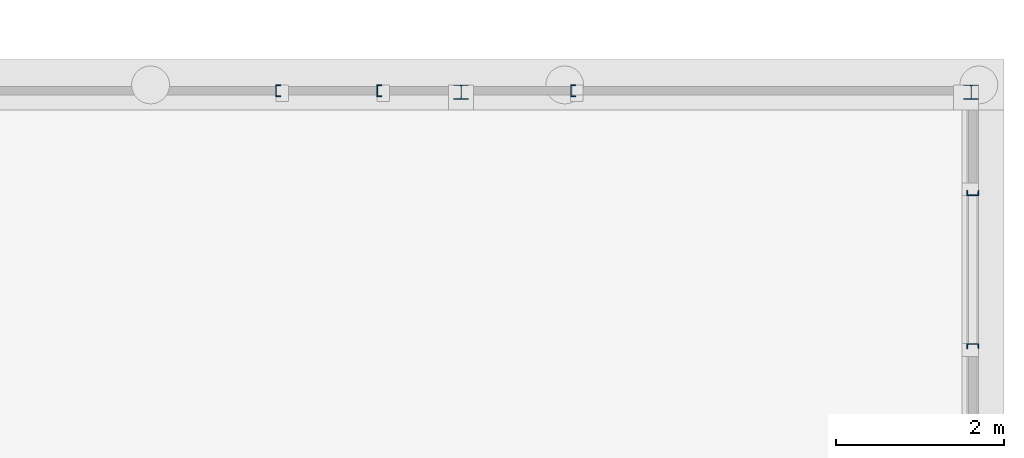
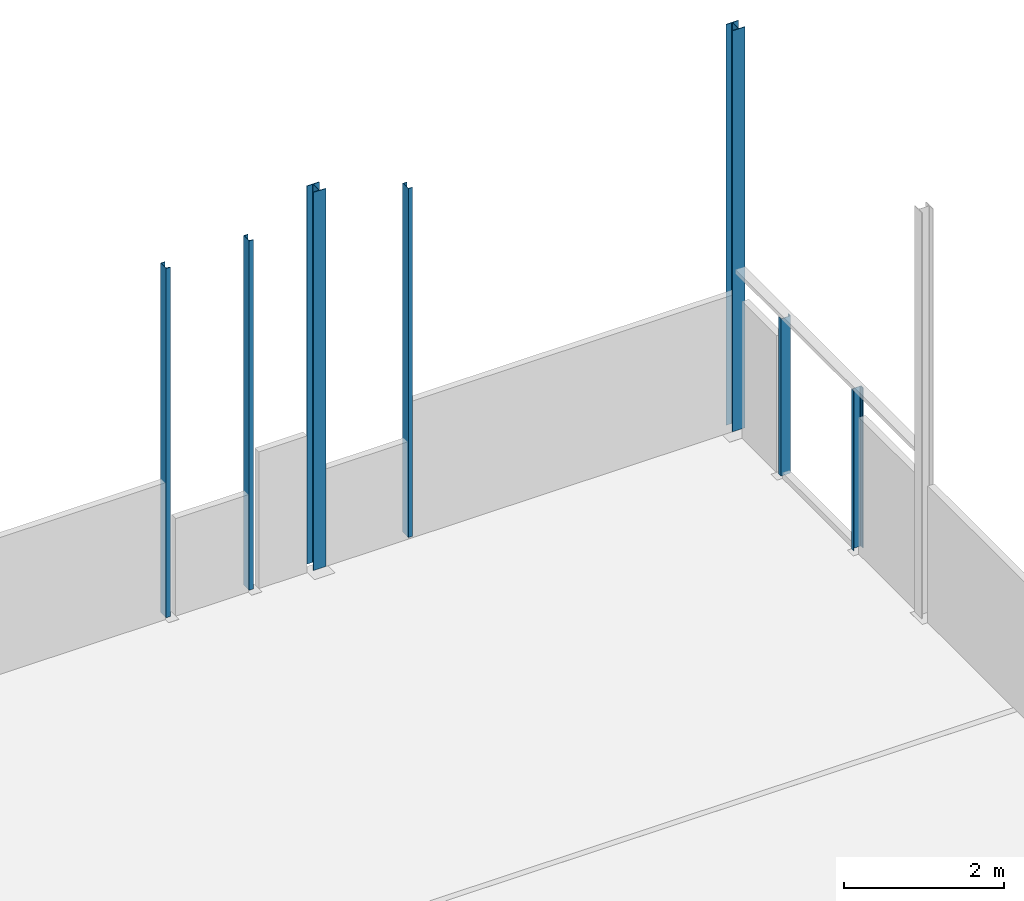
# One storey, part 8 of 18: 7 columns.
"""IFC2X3 building model written with IfcOpenShell, lengths in millimetres."""

from ifc_helpers import new_model, entity, si_unit, converted_unit, derived_unit, direction, frame, frame_2d, origin, place, context, subcontext, project, spatial, polyline, circle_curve, parameter, trimmed, segment, composite_curve, outline, extrude, source, transform, mapped, material, material_list, type_object, type_shapes, element, save


model = new_model("IFC2X3")

# Units and contexts
model_context = context("Model", 3, precision=0.01, world=origin(), true_north=direction((6.12303176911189e-17, 1.0)))
body_context = subcontext(model_context, "Body", "Model", "MODEL_VIEW")
ifc_project = project(units=[si_unit("LENGTHUNIT", "METRE", prefix="MILLI"), si_unit("AREAUNIT", "SQUARE_METRE"), si_unit("VOLUMEUNIT", "CUBIC_METRE"), converted_unit("PLANEANGLEUNIT", "DEGREE", entity("IfcRatioMeasure", 0.0174532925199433), si_unit("PLANEANGLEUNIT", "RADIAN"), dimensions=[0, 0, 0, 0, 0, 0, 0]), si_unit("MASSUNIT", "GRAM", prefix="KILO"), derived_unit("MASSDENSITYUNIT", [(si_unit("MASSUNIT", "GRAM", prefix="KILO"), 1), (si_unit("LENGTHUNIT", "METRE"), -3)]), derived_unit("MOMENTOFINERTIAUNIT", [(si_unit("LENGTHUNIT", "METRE"), 4)]), si_unit("TIMEUNIT", "SECOND"), si_unit("FREQUENCYUNIT", "HERTZ"), si_unit("THERMODYNAMICTEMPERATUREUNIT", "DEGREE_CELSIUS"), derived_unit("THERMALTRANSMITTANCEUNIT", [(si_unit("MASSUNIT", "GRAM", prefix="KILO"), 1), (si_unit("THERMODYNAMICTEMPERATUREUNIT", "KELVIN"), -1), (si_unit("TIMEUNIT", "SECOND"), -3)]), derived_unit("VOLUMETRICFLOWRATEUNIT", [(si_unit("LENGTHUNIT", "METRE"), 3), (si_unit("TIMEUNIT", "SECOND"), -1)]), si_unit("ELECTRICCURRENTUNIT", "AMPERE"), si_unit("ELECTRICVOLTAGEUNIT", "VOLT"), si_unit("POWERUNIT", "WATT"), si_unit("FORCEUNIT", "NEWTON", prefix="KILO"), si_unit("ILLUMINANCEUNIT", "LUX"), si_unit("LUMINOUSFLUXUNIT", "LUMEN"), si_unit("LUMINOUSINTENSITYUNIT", "CANDELA"), derived_unit("USERDEFINED", [(si_unit("MASSUNIT", "GRAM", prefix="KILO"), -1), (si_unit("LENGTHUNIT", "METRE"), -2), (si_unit("TIMEUNIT", "SECOND"), 3), (si_unit("LUMINOUSFLUXUNIT", "LUMEN"), 1)]), derived_unit("LINEARVELOCITYUNIT", [(si_unit("LENGTHUNIT", "METRE"), 1), (si_unit("TIMEUNIT", "SECOND"), -1)]), si_unit("PRESSUREUNIT", "PASCAL"), derived_unit("USERDEFINED", [(si_unit("LENGTHUNIT", "METRE"), -2), (si_unit("MASSUNIT", "GRAM", prefix="KILO"), 1), (si_unit("TIMEUNIT", "SECOND"), -2)]), derived_unit("LINEARFORCEUNIT", [(si_unit("MASSUNIT", "GRAM", prefix="KILO"), 1), (si_unit("LENGTHUNIT", "METRE"), 1), (si_unit("TIMEUNIT", "SECOND"), -2), (si_unit("LENGTHUNIT", "METRE"), -1)]), derived_unit("PLANARFORCEUNIT", [(si_unit("MASSUNIT", "GRAM", prefix="KILO"), 1), (si_unit("LENGTHUNIT", "METRE"), 1), (si_unit("TIMEUNIT", "SECOND"), -2), (si_unit("LENGTHUNIT", "METRE"), -2)])], contexts=[model_context])

# Site, building, storey
site_placement = place(None, origin())
site = spatial("IfcSite", under=ifc_project, at=site_placement, Name="Default", CompositionType="ELEMENT")
building_placement = place(site_placement, origin())
building = spatial("IfcBuilding", under=site, at=building_placement, CompositionType="ELEMENT")
storey_placement = place(building_placement, frame((0.0, 0.0, -1085.0)))
storey = spatial("IfcBuildingStorey", under=building, at=storey_placement, Name="-00 fundatie", CompositionType="ELEMENT", Elevation=-1085.0)

# Columns
ifc_material_1 = material(Name="h2_staal")
column_type_1 = type_object("IfcColumnType", Name="BERSnl_28_SCO_TLB_kolom hea_gen_ISR:kolom gen hea180", PredefinedType="COLUMN", material=ifc_material_1)
shared_shape_1 = source(origin(), body_context, "Body", "SweptSolid", [
    extrude(outline(composite_curve([segment(polyline([(76.0, -90.0), (85.5000000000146, -90.0)]), True, "CONTINUOUS"), segment(polyline([(85.5000000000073, -90.0), (85.5000000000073, 90.0)]), True, "CONTINUOUS"), segment(polyline([(85.5000000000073, 90.0), (76.0, 90.0)]), True, "CONTINUOUS"), segment(polyline([(76.0, 90.0), (76.0, 18.0)]), True, "CONTINUOUS"), segment(trimmed(circle_curve(frame_2d((61.0, 18.0), x_axis=(1.0, 0.0)), 14.9999999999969), [parameter(269.999999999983)], [parameter(0.0)], True, "PARAMETER"), False, "CONTINUOUS"), segment(polyline([(61.0, 3.0), (-61.0, 3.0)]), True, "CONTINUOUS"), segment(trimmed(circle_curve(frame_2d((-61.0, 18.0), x_axis=(0.0, -1.0)), 14.9999999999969), [parameter(269.999999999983)], [parameter(0.0)], True, "PARAMETER"), False, "CONTINUOUS"), segment(polyline([(-76.0, 18.0), (-76.0, 90.0)]), True, "CONTINUOUS"), segment(polyline([(-76.0, 90.0), (-85.4999999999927, 90.0)]), True, "CONTINUOUS"), segment(polyline([(-85.4999999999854, 90.0), (-85.4999999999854, -90.0)]), True, "CONTINUOUS"), segment(polyline([(-85.4999999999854, -90.0), (-76.0, -90.0)]), True, "CONTINUOUS"), segment(polyline([(-76.0, -90.0), (-76.0, -18.0)]), True, "CONTINUOUS"), segment(trimmed(circle_curve(frame_2d((-61.0, -18.0), x_axis=(-1.0, 0.0)), 14.9999999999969), [parameter(269.999999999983)], [parameter(0.0)], True, "PARAMETER"), False, "CONTINUOUS"), segment(polyline([(-61.0, -3.0), (61.0, -3.0)]), True, "CONTINUOUS"), segment(trimmed(circle_curve(frame_2d((61.0, -18.0), x_axis=(0.0, 1.0)), 14.9999999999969), [parameter(269.999999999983)], [parameter(0.0)], True, "PARAMETER"), False, "CONTINUOUS"), segment(polyline([(76.0, -18.0), (76.0, -90.0)]), True, "CONTINUOUS")], self_intersect=False)), frame((53283.4270571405, 35410.7966282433, -50.0), z_axis=(0.0, 0.0, 1.0), x_axis=(0.0, -1.0, 0.0)), (0.0, 0.0, 1.0), 5778.71869854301),
])
type_shapes(column_type_1, [shared_shape_1])
column_1_placement = place(storey_placement, frame((0.0, 0.0, 1085.0)))
element("IfcColumn", 1, at=column_1_placement, inside=storey, type_object=column_type_1, Name="BERSnl_28_SCO_TLB_kolom hea_gen_ISR:kolom gen hea180", ObjectType="BERSnl_28_SCO_TLB_kolom hea_gen_ISR:kolom gen hea180", context=body_context, shape_type="MappedRepresentation", body=[
    mapped(shared_shape_1, transform((0.0, 0.0, 0.0), scale=1.0)),
])
column_type_2 = type_object("IfcColumnType", Name="BERSnl_28_SCO_TLB_kolom hea_gen_ISR:kolom gen hea180", PredefinedType="COLUMN", material=ifc_material_1)
shared_shape_2 = source(origin(), body_context, "Body", "SweptSolid", [
    extrude(outline(composite_curve([segment(polyline([(76.0, -90.0), (85.5000000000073, -90.0)]), True, "CONTINUOUS"), segment(polyline([(85.5, -90.0), (85.5, 90.0)]), True, "CONTINUOUS"), segment(polyline([(85.5, 90.0), (76.0, 90.0)]), True, "CONTINUOUS"), segment(polyline([(76.0, 90.0), (76.0, 18.0)]), True, "CONTINUOUS"), segment(trimmed(circle_curve(frame_2d((61.0, 18.0), x_axis=(1.0, 0.0)), 14.9999999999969), [parameter(269.999999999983)], [parameter(0.0)], True, "PARAMETER"), False, "CONTINUOUS"), segment(polyline([(61.0, 3.0), (-61.0, 3.0)]), True, "CONTINUOUS"), segment(trimmed(circle_curve(frame_2d((-61.0, 18.0), x_axis=(0.0, -1.0)), 14.9999999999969), [parameter(269.999999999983)], [parameter(0.0)], True, "PARAMETER"), False, "CONTINUOUS"), segment(polyline([(-76.0, 18.0), (-76.0, 90.0)]), True, "CONTINUOUS"), segment(polyline([(-76.0, 90.0), (-85.5, 90.0)]), True, "CONTINUOUS"), segment(polyline([(-85.4999999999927, 90.0), (-85.4999999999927, -90.0)]), True, "CONTINUOUS"), segment(polyline([(-85.4999999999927, -90.0), (-76.0, -90.0)]), True, "CONTINUOUS"), segment(polyline([(-76.0, -90.0), (-76.0, -18.0)]), True, "CONTINUOUS"), segment(trimmed(circle_curve(frame_2d((-61.0, -18.0), x_axis=(-1.0, 0.0)), 14.9999999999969), [parameter(269.999999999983)], [parameter(0.0)], True, "PARAMETER"), False, "CONTINUOUS"), segment(polyline([(-61.0, -3.0), (61.0, -3.0)]), True, "CONTINUOUS"), segment(trimmed(circle_curve(frame_2d((61.0, -18.0), x_axis=(0.0, 1.0)), 14.9999999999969), [parameter(269.999999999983)], [parameter(0.0)], True, "PARAMETER"), False, "CONTINUOUS"), segment(polyline([(76.0, -18.0), (76.0, -90.0)]), True, "CONTINUOUS")], self_intersect=False)), frame((59343.4270571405, 35410.7966282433, -50.0), z_axis=(0.0, 0.0, 1.0), x_axis=(0.0, -1.0, 0.0)), (0.0, 0.0, 1.0), 6126.88722357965),
])
type_shapes(column_type_2, [shared_shape_2])
column_2_placement = place(storey_placement, frame((0.0, 0.0, 1085.0)))
element("IfcColumn", 2, at=column_2_placement, inside=storey, type_object=column_type_2, Name="BERSnl_28_SCO_TLB_kolom hea_gen_ISR:kolom gen hea180", ObjectType="BERSnl_28_SCO_TLB_kolom hea_gen_ISR:kolom gen hea180", context=body_context, shape_type="MappedRepresentation", body=[
    mapped(shared_shape_2, transform((0.0, 0.0, 0.0), scale=1.0)),
])
column_type_3 = type_object("IfcColumnType", Name="BERSnl_28_SCO_TLB_kolom unp_gen_ISR:kolom_gen_UNP140", PredefinedType="COLUMN", material=ifc_material_1)
shared_shape_3 = source(origin(), body_context, "Body", "SweptSolid", [
    extrude(outline(composite_curve([segment(polyline([(-26.8998758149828, -70.0), (33.1001241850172, -70.0)]), True, "CONTINUOUS"), segment(polyline([(33.1001241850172, -70.0), (33.1001241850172, 70.0)]), True, "CONTINUOUS"), segment(polyline([(33.1001241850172, 70.0), (-26.8998758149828, 70.0)]), True, "CONTINUOUS"), segment(polyline([(-26.8998758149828, 70.0), (-26.8998758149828, 66.7383127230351)]), True, "CONTINUOUS"), segment(trimmed(circle_curve(frame_2d((-21.8998758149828, 66.7383127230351), x_axis=(-1.0, 0.0)), 5.00000000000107), [parameter(0.0)], [parameter(85.4199999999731)], True, "PARAMETER"), True, "CONTINUOUS"), segment(polyline([(-22.2991307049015, 61.754278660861), (16.8986339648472, 58.6142721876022)]), True, "CONTINUOUS"), segment(trimmed(circle_curve(frame_2d((16.1001241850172, 48.6462040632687), x_axis=(0.0798509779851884, 0.996806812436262)), 10.0000000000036), [parameter(274.580000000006)], [parameter(0.0)], True, "PARAMETER"), False, "CONTINUOUS"), segment(polyline([(26.1001241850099, 48.6462040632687), (26.1001241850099, -48.6462040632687)]), True, "CONTINUOUS"), segment(trimmed(circle_curve(frame_2d((16.1001241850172, -48.6462040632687), x_axis=(1.0, 0.0)), 10.0000000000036), [parameter(274.580000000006)], [parameter(0.0)], True, "PARAMETER"), False, "CONTINUOUS"), segment(polyline([(16.8986339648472, -58.6142721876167), (-22.2991307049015, -61.7542786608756)]), True, "CONTINUOUS"), segment(trimmed(circle_curve(frame_2d((-21.8998758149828, -66.7383127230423), x_axis=(-0.0798509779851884, 0.996806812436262)), 5.00000000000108), [parameter(0.0)], [parameter(85.4199999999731)], True, "PARAMETER"), True, "CONTINUOUS"), segment(polyline([(-26.8998758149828, -66.7383127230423), (-26.8998758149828, -70.0)]), True, "CONTINUOUS")], self_intersect=False)), frame((59363.4270571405, 34215.3967524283, -50.0), z_axis=(0.0, 0.0, 1.0), x_axis=(0.0, -1.0, 0.0)), (0.0, 0.0, 1.0), 2404.99999999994),
])
type_shapes(column_type_3, [shared_shape_3])
column_3_placement = place(storey_placement, frame((0.0, 0.0, 1085.0)))
element("IfcColumn", 3, at=column_3_placement, inside=storey, type_object=column_type_3, Name="BERSnl_28_SCO_TLB_kolom unp_gen_ISR:kolom_gen_UNP140", ObjectType="BERSnl_28_SCO_TLB_kolom unp_gen_ISR:kolom_gen_UNP140", context=body_context, shape_type="MappedRepresentation", body=[
    mapped(shared_shape_3, transform((0.0, 0.0, 0.0), scale=1.0)),
])
column_type_4 = type_object("IfcColumnType", Name="BERSnl_28_SCO_TLB_kolom unp_gen_ISR:kolom_gen_UNP140", PredefinedType="COLUMN", material=ifc_material_1)
shared_shape_4 = source(origin(), body_context, "Body", "SweptSolid", [
    extrude(outline(composite_curve([segment(polyline([(-33.1001241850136, -70.0), (26.8998758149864, -70.0)]), True, "CONTINUOUS"), segment(polyline([(26.8998758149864, -70.0), (26.8998758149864, -66.7383127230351)]), True, "CONTINUOUS"), segment(trimmed(circle_curve(frame_2d((21.8998758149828, -66.7383127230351), x_axis=(1.0, 0.0)), 5.00000000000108), [parameter(0.0)], [parameter(85.4199999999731)], True, "PARAMETER"), True, "CONTINUOUS"), segment(polyline([(22.2991307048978, -61.7542786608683), (-16.8986339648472, -58.6142721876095)]), True, "CONTINUOUS"), segment(trimmed(circle_curve(frame_2d((-16.1001241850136, -48.6462040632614), x_axis=(-0.0798509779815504, -0.996806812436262)), 10.0000000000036), [parameter(274.580000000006)], [parameter(0.0)], True, "PARAMETER"), False, "CONTINUOUS"), segment(polyline([(-26.1001241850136, -48.6462040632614), (-26.1001241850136, 48.6462040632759)]), True, "CONTINUOUS"), segment(trimmed(circle_curve(frame_2d((-16.1001241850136, 48.6462040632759), x_axis=(-1.0, 0.0)), 10.0000000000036), [parameter(274.580000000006)], [parameter(0.0)], True, "PARAMETER"), False, "CONTINUOUS"), segment(polyline([(-16.8986339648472, 58.6142721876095), (22.2991307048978, 61.7542786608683)]), True, "CONTINUOUS"), segment(trimmed(circle_curve(frame_2d((21.8998758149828, 66.7383127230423), x_axis=(0.0798509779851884, -0.996806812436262)), 5.00000000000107), [parameter(0.0)], [parameter(85.4199999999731)], True, "PARAMETER"), True, "CONTINUOUS"), segment(polyline([(26.8998758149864, 66.7383127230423), (26.8998758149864, 70.0)]), True, "CONTINUOUS"), segment(polyline([(26.8998758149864, 70.0), (-33.1001241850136, 70.0)]), True, "CONTINUOUS"), segment(polyline([(-33.1001241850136, 70.0), (-33.1001241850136, -70.0)]), True, "CONTINUOUS")], self_intersect=False)), frame((59363.4270571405, 32389.1965040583, -90.0), z_axis=(0.0, 0.0, 1.0), x_axis=(0.0, -1.0, 0.0)), (0.0, 0.0, 1.0), 2444.99999999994),
])
type_shapes(column_type_4, [shared_shape_4])
column_4_placement = place(storey_placement, frame((0.0, 0.0, 1085.0)))
element("IfcColumn", 4, at=column_4_placement, inside=storey, type_object=column_type_4, Name="BERSnl_28_SCO_TLB_kolom unp_gen_ISR:kolom_gen_UNP140", ObjectType="BERSnl_28_SCO_TLB_kolom unp_gen_ISR:kolom_gen_UNP140", context=body_context, shape_type="MappedRepresentation", body=[
    mapped(shared_shape_4, transform((0.0, 0.0, 0.0), scale=1.0)),
])
ifc_material_2 = material(Name="<Unnamed>")
ifc_material_3 = material(Name="00_Staal_generiek")
ifc_material_list_1 = material_list([ifc_material_2, ifc_material_3])
column_type_5 = type_object("IfcColumnType", Name="BERSnl_28_SCO_TLB_kolom unp_gen_ISR:kolom_gen_UNP140", PredefinedType="COLUMN", material=ifc_material_list_1)
shared_shape_5 = source(origin(), body_context, "Body", "SweptSolid", [
    extrude(outline(composite_curve([segment(polyline([(-70.0, -33.1001241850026), (70.0, -33.1001241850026)]), True, "CONTINUOUS"), segment(polyline([(70.0, -33.1001241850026), (70.0, 26.8998758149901)]), True, "CONTINUOUS"), segment(polyline([(70.0, 26.8998758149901), (66.7383127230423, 26.8998758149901)]), True, "CONTINUOUS"), segment(trimmed(circle_curve(frame_2d((66.7383127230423, 21.8998758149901), x_axis=(0.0, 1.0)), 4.99999999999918), [parameter(0.0)], [parameter(85.4200000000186)], True, "PARAMETER"), True, "CONTINUOUS"), segment(polyline([(61.7542786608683, 22.2991307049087), (58.6142721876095, -16.89863396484)]), True, "CONTINUOUS"), segment(trimmed(circle_curve(frame_2d((48.6462040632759, -16.1001241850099), x_axis=(0.996806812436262, -0.0798509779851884)), 9.99999999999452), [parameter(274.579999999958)], [parameter(0.0)], True, "PARAMETER"), False, "CONTINUOUS"), segment(polyline([(48.6462040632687, -26.1001241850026), (-48.6462040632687, -26.1001241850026)]), True, "CONTINUOUS"), segment(trimmed(circle_curve(frame_2d((-48.6462040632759, -16.1001241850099), x_axis=(0.0, -1.0)), 9.99999999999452), [parameter(274.579999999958)], [parameter(0.0)], True, "PARAMETER"), False, "CONTINUOUS"), segment(polyline([(-58.6142721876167, -16.89863396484), (-61.7542786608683, 22.2991307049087)]), True, "CONTINUOUS"), segment(trimmed(circle_curve(frame_2d((-66.7383127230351, 21.8998758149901), x_axis=(0.996806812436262, 0.0798509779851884)), 4.99999999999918), [parameter(0.0)], [parameter(85.4200000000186)], True, "PARAMETER"), True, "CONTINUOUS"), segment(polyline([(-66.7383127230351, 26.8998758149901), (-70.0, 26.8998758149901)]), True, "CONTINUOUS"), segment(polyline([(-70.0, 26.8998758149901), (-70.0, -33.1001241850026)]), True, "CONTINUOUS")], self_intersect=False)), frame((51116.3613314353, 35426.2966282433, -50.0), z_axis=(0.0, 0.0, 1.0), x_axis=(0.0, -1.0, 0.0)), (0.0, 0.0, 1.0), 5338.29999999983),
])
type_shapes(column_type_5, [shared_shape_5])
column_5_placement = place(storey_placement, frame((0.0, 0.0, 1085.0)))
element("IfcColumn", 5, at=column_5_placement, inside=storey, type_object=column_type_5, Name="BERSnl_28_SCO_TLB_kolom unp_gen_ISR:kolom_gen_UNP140", ObjectType="BERSnl_28_SCO_TLB_kolom unp_gen_ISR:kolom_gen_UNP140", context=body_context, shape_type="MappedRepresentation", body=[
    mapped(shared_shape_5, transform((0.0, 0.0, 0.0), scale=1.0)),
])
ifc_material_list_2 = material_list([ifc_material_2, ifc_material_3])
column_type_6 = type_object("IfcColumnType", Name="BERSnl_28_SCO_TLB_kolom unp_gen_ISR:kolom_gen_UNP140", PredefinedType="COLUMN", material=ifc_material_list_2)
shared_shape_6 = source(origin(), body_context, "Body", "SweptSolid", [
    extrude(outline(composite_curve([segment(polyline([(-70.0, -33.1001241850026), (70.0, -33.1001241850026)]), True, "CONTINUOUS"), segment(polyline([(70.0, -33.1001241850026), (70.0, 26.8998758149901)]), True, "CONTINUOUS"), segment(polyline([(70.0, 26.8998758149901), (66.7383127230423, 26.8998758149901)]), True, "CONTINUOUS"), segment(trimmed(circle_curve(frame_2d((66.7383127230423, 21.8998758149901), x_axis=(0.0, 1.0)), 4.99999999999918), [parameter(0.0)], [parameter(85.4200000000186)], True, "PARAMETER"), True, "CONTINUOUS"), segment(polyline([(61.7542786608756, 22.2991307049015), (58.6142721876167, -16.8986339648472)]), True, "CONTINUOUS"), segment(trimmed(circle_curve(frame_2d((48.6462040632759, -16.1001241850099), x_axis=(0.996806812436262, -0.0798509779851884)), 9.99999999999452), [parameter(274.579999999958)], [parameter(0.0)], True, "PARAMETER"), False, "CONTINUOUS"), segment(polyline([(48.6462040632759, -26.1001241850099), (-48.6462040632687, -26.1001241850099)]), True, "CONTINUOUS"), segment(trimmed(circle_curve(frame_2d((-48.6462040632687, -16.1001241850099), x_axis=(0.0, -1.0)), 9.99999999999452), [parameter(274.579999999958)], [parameter(0.0)], True, "PARAMETER"), False, "CONTINUOUS"), segment(polyline([(-58.6142721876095, -16.8986339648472), (-61.7542786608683, 22.2991307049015)]), True, "CONTINUOUS"), segment(trimmed(circle_curve(frame_2d((-66.7383127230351, 21.8998758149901), x_axis=(0.996806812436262, 0.0798509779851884)), 4.99999999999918), [parameter(0.0)], [parameter(85.4200000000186)], True, "PARAMETER"), True, "CONTINUOUS"), segment(polyline([(-66.7383127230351, 26.8998758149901), (-70.0, 26.8998758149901)]), True, "CONTINUOUS"), segment(polyline([(-70.0, 26.8998758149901), (-70.0, -33.1001241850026)]), True, "CONTINUOUS")], self_intersect=False)), frame((52316.5271813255, 35426.2966282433, -50.0), z_axis=(0.0, 0.0, 1.0), x_axis=(0.0, -1.0, 0.0)), (0.0, 0.0, 1.0), 5338.29999999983),
])
type_shapes(column_type_6, [shared_shape_6])
column_6_placement = place(storey_placement, frame((0.0, 0.0, 1085.0)))
element("IfcColumn", 6, at=column_6_placement, inside=storey, type_object=column_type_6, Name="BERSnl_28_SCO_TLB_kolom unp_gen_ISR:kolom_gen_UNP140", ObjectType="BERSnl_28_SCO_TLB_kolom unp_gen_ISR:kolom_gen_UNP140", context=body_context, shape_type="MappedRepresentation", body=[
    mapped(shared_shape_6, transform((0.0, 0.0, 0.0), scale=1.0)),
])
ifc_material_list_3 = material_list([ifc_material_2, ifc_material_3])
column_type_7 = type_object("IfcColumnType", Name="BERSnl_28_SCO_TLB_kolom unp_gen_ISR:kolom_gen_UNP140", PredefinedType="COLUMN", material=ifc_material_list_3)
shared_shape_7 = source(origin(), body_context, "Body", "SweptSolid", [
    extrude(outline(composite_curve([segment(polyline([(-70.0, -33.1001241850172), (70.0, -33.1001241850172)]), True, "CONTINUOUS"), segment(polyline([(70.0, -33.1001241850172), (70.0, 26.8998758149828)]), True, "CONTINUOUS"), segment(polyline([(70.0, 26.8998758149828), (66.7383127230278, 26.8998758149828)]), True, "CONTINUOUS"), segment(trimmed(circle_curve(frame_2d((66.7383127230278, 21.8998758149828), x_axis=(0.0, 1.0)), 4.99999999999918), [parameter(0.0)], [parameter(85.4200000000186)], True, "PARAMETER"), True, "CONTINUOUS"), segment(polyline([(61.754278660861, 22.2991307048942), (58.6142721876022, -16.8986339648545)]), True, "CONTINUOUS"), segment(trimmed(circle_curve(frame_2d((48.6462040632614, -16.1001241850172), x_axis=(0.996806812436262, -0.0798509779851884)), 9.99999999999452), [parameter(274.579999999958)], [parameter(0.0)], True, "PARAMETER"), False, "CONTINUOUS"), segment(polyline([(48.6462040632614, -26.1001241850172), (-48.6462040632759, -26.1001241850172)]), True, "CONTINUOUS"), segment(trimmed(circle_curve(frame_2d((-48.6462040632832, -16.1001241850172), x_axis=(0.0, -1.0)), 9.99999999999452), [parameter(274.579999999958)], [parameter(0.0)], True, "PARAMETER"), False, "CONTINUOUS"), segment(polyline([(-58.614272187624, -16.8986339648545), (-61.7542786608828, 22.2991307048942)]), True, "CONTINUOUS"), segment(trimmed(circle_curve(frame_2d((-66.7383127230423, 21.8998758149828), x_axis=(0.996806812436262, 0.0798509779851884)), 4.99999999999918), [parameter(0.0)], [parameter(85.4200000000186)], True, "PARAMETER"), True, "CONTINUOUS"), segment(polyline([(-66.7383127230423, 26.8998758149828), (-70.0, 26.8998758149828)]), True, "CONTINUOUS"), segment(polyline([(-70.0, 26.8998758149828), (-70.0, -33.1001241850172)]), True, "CONTINUOUS")], self_intersect=False)), frame((54616.5271813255, 35426.2966282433, -50.0), z_axis=(0.0, 0.0, 1.0), x_axis=(0.0, -1.0, 0.0)), (0.0, 0.0, 1.0), 5331.69999999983),
])
type_shapes(column_type_7, [shared_shape_7])
column_7_placement = place(storey_placement, frame((0.0, 0.0, 1085.0)))
element("IfcColumn", 7, at=column_7_placement, inside=storey, type_object=column_type_7, Name="BERSnl_28_SCO_TLB_kolom unp_gen_ISR:kolom_gen_UNP140", ObjectType="BERSnl_28_SCO_TLB_kolom unp_gen_ISR:kolom_gen_UNP140", context=body_context, shape_type="MappedRepresentation", body=[
    mapped(shared_shape_7, transform((0.0, 0.0, 0.0), scale=1.0)),
])

save(model, "model.ifc")
